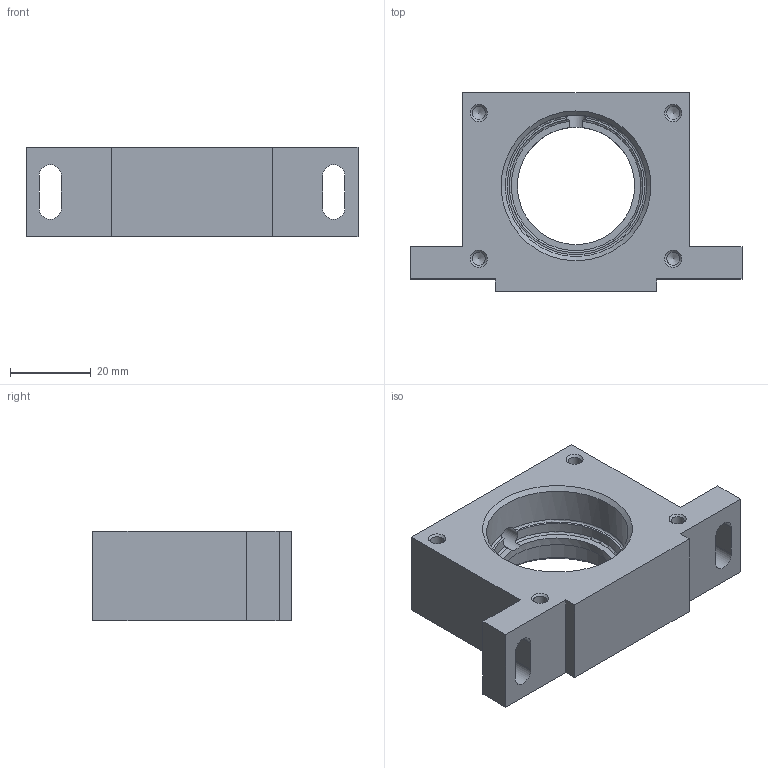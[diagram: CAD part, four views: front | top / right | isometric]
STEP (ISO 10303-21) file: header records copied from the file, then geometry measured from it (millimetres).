
FILE_DESCRIPTION(('STEP AP203'), '1');
FILE_NAME('ÒÏÏÔ1801.01.08.02.001 - Îïîðà ïîäøèïíèêà', '', ('UNSPECIFIED'), ('UNSPECIFIED'), 'C3D Converter', 'C3D Toolkit', '');
FILE_SCHEMA(('CONFIG_CONTROL_DESIGN'));
Length unit declared in the file: millimetre
Products named in the file (1): ТППФ1801.01.08.02.001
Bounding box: 82 x 49 x 22 mm (x, y, z)
Volume: 41713 mm3; surface area: 13458.2 mm2
Topology: 1 solids, 1 shells, 59 faces, 152 edges, 95 vertices
Faces by surface type: plane 21, cone 18, cylinder 17, torus 3
Full cylindrical faces by diameter (mm): 3.242 x8, 5 x1, 29 x1, 35 x2
Entity records: 2290 total; most frequent: CARTESIAN_POINT 485, DIRECTION 272, ORIENTED_EDGE 226, EDGE_CURVE 113, AXIS2_PLACEMENT_3D 108, EDGE_LOOP 98, VERTEX_POINT 87, COLOUR_RGB 60
